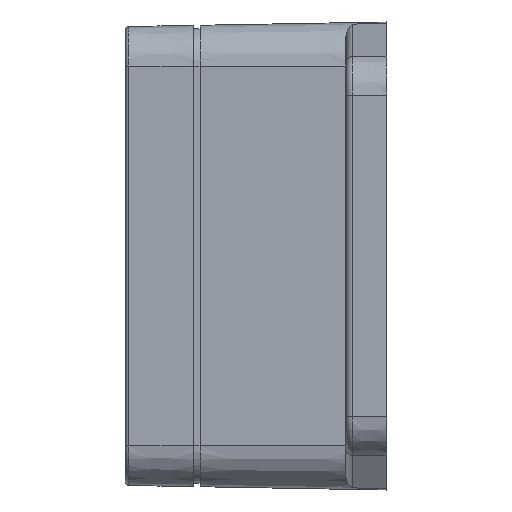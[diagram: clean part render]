
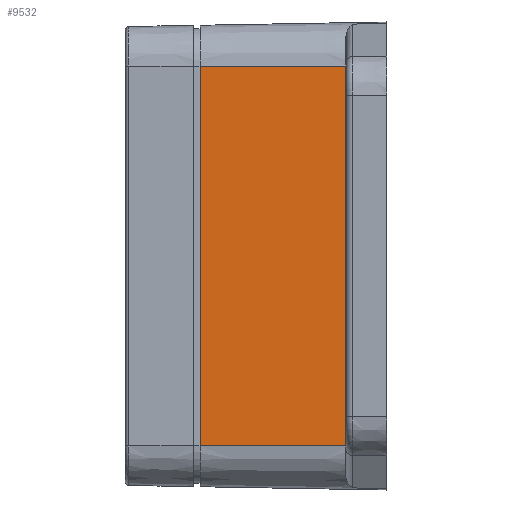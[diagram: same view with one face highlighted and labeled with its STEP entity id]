
A CAD part, left-side view. The second image highlights one B-rep face of the part: STEP entity #9532.
In plain terms, the highlighted planar face has unit normal (-1, 0.018, 0).
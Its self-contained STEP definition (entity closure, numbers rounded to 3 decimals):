
#355 = VECTOR ( 'NONE', #7264, 1000. ) ;
#790 = DIRECTION ( 'NONE',  ( 0., 0., 1. ) ) ;
#1015 = AXIS2_PLACEMENT_3D ( 'NONE', #1756, #2999, #6789 ) ;
#1493 = CARTESIAN_POINT ( 'NONE',  ( -32.017, -1., 28. ) ) ;
#1733 = DIRECTION ( 'NONE',  ( 0.017, 1., 0. ) ) ;
#1756 = CARTESIAN_POINT ( 'NONE',  ( -32., 0., 28. ) ) ;
#1814 = ORIENTED_EDGE ( 'NONE', *, *, #15952, .F. ) ;
#1833 = PLANE ( 'NONE',  #1015 ) ;
#2228 = CARTESIAN_POINT ( 'NONE',  ( -32.017, -1., 28. ) ) ;
#2999 = DIRECTION ( 'NONE',  ( -1., 0.017, 0. ) ) ;
#3233 = FACE_OUTER_BOUND ( 'NONE', #12851, .T. ) ;
#3288 = CARTESIAN_POINT ( 'NONE',  ( -32.393, -22.5, 28. ) ) ;
#3293 = DIRECTION ( 'NONE',  ( 0.017, 1., 0. ) ) ;
#4182 = VECTOR ( 'NONE', #790, 1000. ) ;
#5757 = CARTESIAN_POINT ( 'NONE',  ( -32., 0., 28. ) ) ;
#6370 = CARTESIAN_POINT ( 'NONE',  ( -32.017, -1., -28. ) ) ;
#6789 = DIRECTION ( 'NONE',  ( -0.017, -1., 0. ) ) ;
#7264 = DIRECTION ( 'NONE',  ( 0., 0., -1. ) ) ;
#7280 = VERTEX_POINT ( 'NONE', #3288 ) ;
#7763 = CARTESIAN_POINT ( 'NONE',  ( -32., 0., -28. ) ) ;
#7919 = VERTEX_POINT ( 'NONE', #6370 ) ;
#7946 = VERTEX_POINT ( 'NONE', #1493 ) ;
#8391 = LINE ( 'NONE', #11913, #4182 ) ;
#8485 = EDGE_CURVE ( 'NONE', #7280, #7946, #15918, .T. ) ;
#8542 = EDGE_CURVE ( 'NONE', #7946, #7919, #13524, .T. ) ;
#8590 = ORIENTED_EDGE ( 'NONE', *, *, #8485, .T. ) ;
#9532 = ADVANCED_FACE ( 'NONE', ( #3233 ), #1833, .T. ) ;
#9990 = CARTESIAN_POINT ( 'NONE',  ( -32.393, -22.5, -28. ) ) ;
#11039 = VECTOR ( 'NONE', #1733, 1000. ) ;
#11709 = LINE ( 'NONE', #7763, #11039 ) ;
#11913 = CARTESIAN_POINT ( 'NONE',  ( -32.393, -22.5, 28. ) ) ;
#12010 = ORIENTED_EDGE ( 'NONE', *, *, #15200, .T. ) ;
#12851 = EDGE_LOOP ( 'NONE', ( #8590, #12880, #1814, #12010 ) ) ;
#12880 = ORIENTED_EDGE ( 'NONE', *, *, #8542, .T. ) ;
#13380 = VERTEX_POINT ( 'NONE', #9990 ) ;
#13524 = LINE ( 'NONE', #2228, #355 ) ;
#15200 = EDGE_CURVE ( 'NONE', #13380, #7280, #8391, .T. ) ;
#15353 = VECTOR ( 'NONE', #3293, 1000. ) ;
#15918 = LINE ( 'NONE', #5757, #15353 ) ;
#15952 = EDGE_CURVE ( 'NONE', #13380, #7919, #11709, .T. ) ;
